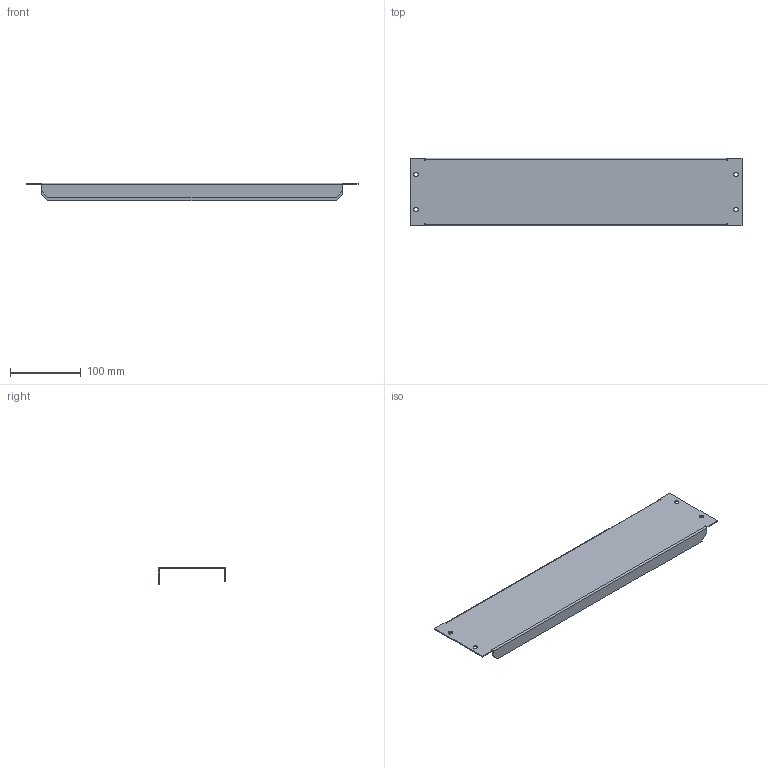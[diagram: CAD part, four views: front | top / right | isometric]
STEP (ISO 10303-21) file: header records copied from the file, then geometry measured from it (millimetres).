
FILE_DESCRIPTION (( 'STEP AP203' ), '1' );
FILE_NAME ('MSMPN1006.STEP', '2016-09-05T12:32:46', ( '' ), ( '' ), 'SwSTEP 2.0', 'SolidWorks 2014', '' );
FILE_SCHEMA (( 'CONFIG_CONTROL_DESIGN' ));
Length unit declared in the file: millimetre
Products named in the file (2): MSMPN1006
Bounding box: 470 x 96 x 25 mm (x, y, z)
Volume: 93297.6 mm3; surface area: 126343 mm2
Topology: 1 solids, 1 shells, 50 faces, 128 edges, 80 vertices
Faces by surface type: plane 38, cylinder 12
Entity records: 1659 total; most frequent: CARTESIAN_POINT 260, ORIENTED_EDGE 256, DIRECTION 256, EDGE_CURVE 128, VECTOR 104, LINE 104, VERTEX_POINT 80, AXIS2_PLACEMENT_3D 76
